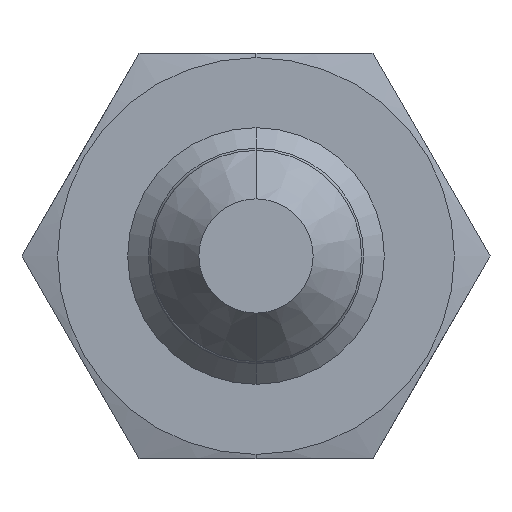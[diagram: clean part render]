
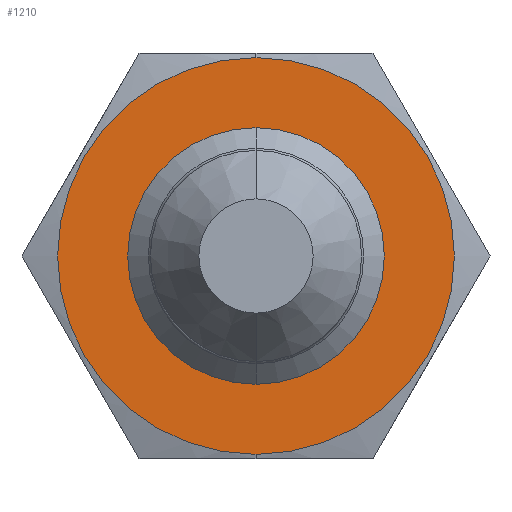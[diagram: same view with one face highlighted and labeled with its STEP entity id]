
A CAD part, left-side view. The second image highlights one B-rep face of the part: STEP entity #1210.
In plain terms, the highlighted planar face has unit normal (-1, 0, 0).
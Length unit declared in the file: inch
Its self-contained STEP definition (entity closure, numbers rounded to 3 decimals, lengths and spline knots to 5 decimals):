
#1 = EDGE_CURVE ( 'NONE', #1206, #37, #407, .T. ) ;
#37 = VERTEX_POINT ( 'NONE', #952 ) ;
#81 = EDGE_LOOP ( 'NONE', ( #1411, #322 ) ) ;
#111 = AXIS2_PLACEMENT_3D ( 'NONE', #1183, #220, #949 ) ;
#124 = CARTESIAN_POINT ( 'NONE',  ( 0.55, 0., 0.335 ) ) ;
#220 = DIRECTION ( 'NONE',  ( 1., 0., 0. ) ) ;
#289 = DIRECTION ( 'NONE',  ( -1., 0., 0. ) ) ;
#322 = ORIENTED_EDGE ( 'NONE', *, *, #542, .T. ) ;
#370 = PLANE ( 'NONE',  #1386 ) ;
#392 = VERTEX_POINT ( 'NONE', #470 ) ;
#407 = CIRCLE ( 'NONE', #1350, 0.20475 ) ;
#412 = CARTESIAN_POINT ( 'NONE',  ( 0.55, 0., 0. ) ) ;
#455 = CIRCLE ( 'NONE', #1271, 0.335 ) ;
#470 = CARTESIAN_POINT ( 'NONE',  ( 0.55, 0., -0.335 ) ) ;
#542 = EDGE_CURVE ( 'NONE', #674, #392, #455, .T. ) ;
#554 = CARTESIAN_POINT ( 'NONE',  ( 0.55, 0., 0. ) ) ;
#585 = ORIENTED_EDGE ( 'NONE', *, *, #1010, .T. ) ;
#589 = FACE_OUTER_BOUND ( 'NONE', #81, .T. ) ;
#612 = CARTESIAN_POINT ( 'NONE',  ( 0.55, 0.20475, 0. ) ) ;
#633 = DIRECTION ( 'NONE',  ( 0., 0., 1. ) ) ;
#674 = VERTEX_POINT ( 'NONE', #124 ) ;
#750 = CIRCLE ( 'NONE', #1238, 0.335 ) ;
#842 = EDGE_CURVE ( 'NONE', #392, #674, #750, .T. ) ;
#858 = DIRECTION ( 'NONE',  ( -1., 0., 0. ) ) ;
#881 = DIRECTION ( 'NONE',  ( 1., 0., 0. ) ) ;
#912 = CARTESIAN_POINT ( 'NONE',  ( 0.55, 0., 0. ) ) ;
#921 = DIRECTION ( 'NONE',  ( -1., 0., 0. ) ) ;
#926 = DIRECTION ( 'NONE',  ( 0., 0., 1. ) ) ;
#931 = CARTESIAN_POINT ( 'NONE',  ( 0.55, 0., -0.20475 ) ) ;
#949 = DIRECTION ( 'NONE',  ( 0., 0., -1. ) ) ;
#952 = CARTESIAN_POINT ( 'NONE',  ( 0.55, 0., 0.20475 ) ) ;
#1010 = EDGE_CURVE ( 'NONE', #37, #1206, #1169, .T. ) ;
#1131 = DIRECTION ( 'NONE',  ( 0., 0., 1. ) ) ;
#1169 = CIRCLE ( 'NONE', #111, 0.20475 ) ;
#1183 = CARTESIAN_POINT ( 'NONE',  ( 0.55, 0., 0. ) ) ;
#1206 = VERTEX_POINT ( 'NONE', #931 ) ;
#1210 = ADVANCED_FACE ( 'NONE', ( #1371, #589 ), #370, .T. ) ;
#1238 = AXIS2_PLACEMENT_3D ( 'NONE', #912, #921, #1131 ) ;
#1271 = AXIS2_PLACEMENT_3D ( 'NONE', #412, #858, #633 ) ;
#1318 = DIRECTION ( 'NONE',  ( 0., 0., -1. ) ) ;
#1346 = EDGE_LOOP ( 'NONE', ( #1419, #585 ) ) ;
#1350 = AXIS2_PLACEMENT_3D ( 'NONE', #554, #881, #1318 ) ;
#1371 = FACE_BOUND ( 'NONE', #1346, .T. ) ;
#1386 = AXIS2_PLACEMENT_3D ( 'NONE', #612, #289, #926 ) ;
#1411 = ORIENTED_EDGE ( 'NONE', *, *, #842, .T. ) ;
#1419 = ORIENTED_EDGE ( 'NONE', *, *, #1, .T. ) ;
